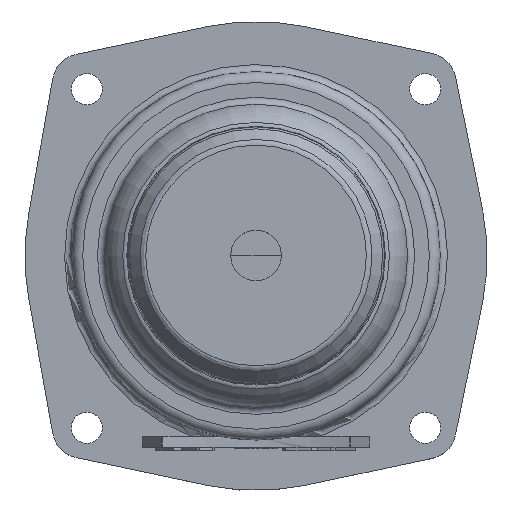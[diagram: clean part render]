
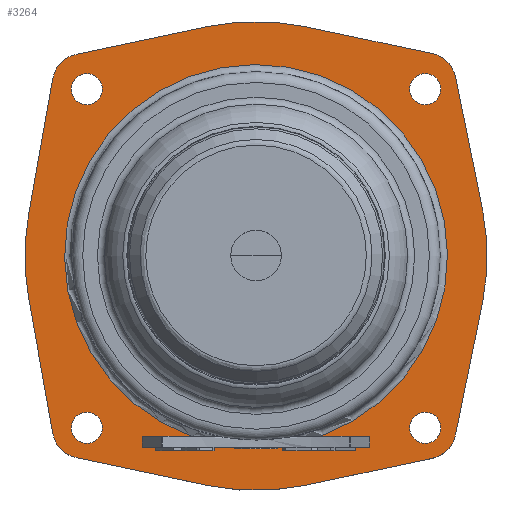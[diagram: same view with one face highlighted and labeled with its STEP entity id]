
A CAD part, top view. The second image highlights one B-rep face of the part: STEP entity #3264.
In plain terms, the highlighted planar face has unit normal (0, 0, 1).
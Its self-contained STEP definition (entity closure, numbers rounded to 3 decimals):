
#80=FACE_BOUND('',#1072,.T.);
#81=FACE_BOUND('',#1073,.T.);
#82=FACE_BOUND('',#1074,.T.);
#83=FACE_BOUND('',#1075,.T.);
#84=FACE_BOUND('',#1076,.T.);
#162=LINE('',#5100,#386);
#166=LINE('',#5112,#390);
#170=LINE('',#5124,#394);
#174=LINE('',#5136,#398);
#351=LINE('',#6741,#575);
#352=LINE('',#6745,#576);
#353=LINE('',#6749,#577);
#354=LINE('',#6752,#578);
#386=VECTOR('',#3726,18.72);
#390=VECTOR('',#3738,18.06);
#394=VECTOR('',#3750,18.582);
#398=VECTOR('',#3762,19.233);
#575=VECTOR('',#4529,18.791);
#576=VECTOR('',#4532,18.042);
#577=VECTOR('',#4535,18.57);
#578=VECTOR('',#4538,19.307);
#675=PLANE('',#3624);
#865=FACE_OUTER_BOUND('',#1071,.T.);
#1071=EDGE_LOOP('',(#2979,#2980,#2981,#2982,#2983,#2984,#2985,#2986,#2987,
#2988,#2989,#2990,#2991,#2992,#2993,#2994));
#1072=EDGE_LOOP('',(#2995));
#1073=EDGE_LOOP('',(#2996));
#1074=EDGE_LOOP('',(#2997));
#1075=EDGE_LOOP('',(#2998));
#1076=EDGE_LOOP('',(#2999));
#1113=CIRCLE('',#3313,2.159);
#1115=CIRCLE('',#3316,2.159);
#1118=CIRCLE('',#3321,4.16);
#1120=CIRCLE('',#3325,32.439);
#1122=CIRCLE('',#3329,4.16);
#1180=CIRCLE('',#3483,32.006);
#1210=CIRCLE('',#3530,26.5);
#1259=CIRCLE('',#3625,32.);
#1260=CIRCLE('',#3626,4.16);
#1261=CIRCLE('',#3627,32.497);
#1262=CIRCLE('',#3628,4.16);
#1263=CIRCLE('',#3629,2.159);
#1264=CIRCLE('',#3630,2.159);
#1375=VERTEX_POINT('',#5082);
#1377=VERTEX_POINT('',#5088);
#1381=VERTEX_POINT('',#5097);
#1382=VERTEX_POINT('',#5099);
#1384=VERTEX_POINT('',#5105);
#1386=VERTEX_POINT('',#5111);
#1388=VERTEX_POINT('',#5117);
#1390=VERTEX_POINT('',#5123);
#1392=VERTEX_POINT('',#5129);
#1394=VERTEX_POINT('',#5135);
#1545=VERTEX_POINT('',#5877);
#1579=VERTEX_POINT('',#6052);
#1622=VERTEX_POINT('',#6738);
#1623=VERTEX_POINT('',#6740);
#1624=VERTEX_POINT('',#6742);
#1625=VERTEX_POINT('',#6744);
#1626=VERTEX_POINT('',#6746);
#1627=VERTEX_POINT('',#6748);
#1628=VERTEX_POINT('',#6750);
#1629=VERTEX_POINT('',#6753);
#1630=VERTEX_POINT('',#6755);
#1687=EDGE_CURVE('',#1375,#1375,#1113,.T.);
#1690=EDGE_CURVE('',#1377,#1377,#1115,.T.);
#1695=EDGE_CURVE('',#1381,#1382,#162,.T.);
#1698=EDGE_CURVE('',#1382,#1384,#1118,.T.);
#1701=EDGE_CURVE('',#1384,#1386,#166,.T.);
#1704=EDGE_CURVE('',#1386,#1388,#1120,.T.);
#1707=EDGE_CURVE('',#1388,#1390,#170,.T.);
#1710=EDGE_CURVE('',#1390,#1392,#1122,.T.);
#1713=EDGE_CURVE('',#1392,#1394,#174,.T.);
#1954=EDGE_CURVE('',#1545,#1381,#1180,.T.);
#1999=EDGE_CURVE('',#1579,#1579,#1210,.T.);
#2086=EDGE_CURVE('',#1394,#1622,#1259,.T.);
#2087=EDGE_CURVE('',#1623,#1545,#351,.T.);
#2088=EDGE_CURVE('',#1624,#1623,#1260,.T.);
#2089=EDGE_CURVE('',#1625,#1624,#352,.T.);
#2090=EDGE_CURVE('',#1626,#1625,#1261,.T.);
#2091=EDGE_CURVE('',#1627,#1626,#353,.T.);
#2092=EDGE_CURVE('',#1628,#1627,#1262,.T.);
#2093=EDGE_CURVE('',#1622,#1628,#354,.T.);
#2094=EDGE_CURVE('',#1629,#1629,#1263,.T.);
#2095=EDGE_CURVE('',#1630,#1630,#1264,.T.);
#2979=ORIENTED_EDGE('',*,*,#2086,.F.);
#2980=ORIENTED_EDGE('',*,*,#1713,.F.);
#2981=ORIENTED_EDGE('',*,*,#1710,.F.);
#2982=ORIENTED_EDGE('',*,*,#1707,.F.);
#2983=ORIENTED_EDGE('',*,*,#1704,.F.);
#2984=ORIENTED_EDGE('',*,*,#1701,.F.);
#2985=ORIENTED_EDGE('',*,*,#1698,.F.);
#2986=ORIENTED_EDGE('',*,*,#1695,.F.);
#2987=ORIENTED_EDGE('',*,*,#1954,.F.);
#2988=ORIENTED_EDGE('',*,*,#2087,.F.);
#2989=ORIENTED_EDGE('',*,*,#2088,.F.);
#2990=ORIENTED_EDGE('',*,*,#2089,.F.);
#2991=ORIENTED_EDGE('',*,*,#2090,.F.);
#2992=ORIENTED_EDGE('',*,*,#2091,.F.);
#2993=ORIENTED_EDGE('',*,*,#2092,.F.);
#2994=ORIENTED_EDGE('',*,*,#2093,.F.);
#2995=ORIENTED_EDGE('',*,*,#1999,.F.);
#2996=ORIENTED_EDGE('',*,*,#1690,.F.);
#2997=ORIENTED_EDGE('',*,*,#1687,.F.);
#2998=ORIENTED_EDGE('',*,*,#2094,.F.);
#2999=ORIENTED_EDGE('',*,*,#2095,.F.);
#3264=ADVANCED_FACE('',(#865,#80,#81,#82,#83,#84),#675,.F.);
#3313=AXIS2_PLACEMENT_3D('',#5083,#3710,#3711);
#3316=AXIS2_PLACEMENT_3D('',#5089,#3717,#3718);
#3321=AXIS2_PLACEMENT_3D('',#5106,#3732,#3733);
#3325=AXIS2_PLACEMENT_3D('',#5118,#3744,#3745);
#3329=AXIS2_PLACEMENT_3D('',#5130,#3756,#3757);
#3483=AXIS2_PLACEMENT_3D('',#5879,#4214,#4215);
#3530=AXIS2_PLACEMENT_3D('',#6053,#4311,#4312);
#3624=AXIS2_PLACEMENT_3D('',#6737,#4525,#4526);
#3625=AXIS2_PLACEMENT_3D('',#6739,#4527,#4528);
#3626=AXIS2_PLACEMENT_3D('',#6743,#4530,#4531);
#3627=AXIS2_PLACEMENT_3D('',#6747,#4533,#4534);
#3628=AXIS2_PLACEMENT_3D('',#6751,#4536,#4537);
#3629=AXIS2_PLACEMENT_3D('',#6754,#4539,#4540);
#3630=AXIS2_PLACEMENT_3D('',#6756,#4541,#4542);
#3710=DIRECTION('center_axis',(0.,0.,1.));
#3711=DIRECTION('ref_axis',(-1.,0.,0.));
#3717=DIRECTION('center_axis',(0.,0.,1.));
#3718=DIRECTION('ref_axis',(-1.,0.,0.));
#3726=DIRECTION('',(-0.2,-0.98,0.));
#3732=DIRECTION('center_axis',(0.,0.,-1.));
#3733=DIRECTION('ref_axis',(0.98,-0.2,0.));
#3738=DIRECTION('',(-0.978,-0.208,0.));
#3744=DIRECTION('center_axis',(0.,0.,-1.));
#3745=DIRECTION('ref_axis',(0.208,-0.978,0.));
#3750=DIRECTION('',(-0.978,0.207,0.));
#3756=DIRECTION('center_axis',(0.,0.,-1.));
#3757=DIRECTION('ref_axis',(-0.207,-0.978,0.));
#3762=DIRECTION('',(-0.175,0.985,0.));
#4214=DIRECTION('center_axis',(0.,0.,-1.));
#4215=DIRECTION('ref_axis',(0.98,0.2,0.));
#4311=DIRECTION('center_axis',(0.,0.,1.));
#4312=DIRECTION('ref_axis',(1.,0.,0.));
#4525=DIRECTION('center_axis',(0.,0.,-1.));
#4526=DIRECTION('ref_axis',(0.,-1.,0.));
#4527=DIRECTION('center_axis',(0.,0.,-1.));
#4528=DIRECTION('ref_axis',(-0.985,-0.175,0.));
#4529=DIRECTION('',(0.2,-0.98,0.));
#4530=DIRECTION('center_axis',(0.,0.,-1.));
#4531=DIRECTION('ref_axis',(0.207,0.978,0.));
#4532=DIRECTION('',(0.978,-0.207,0.));
#4533=DIRECTION('center_axis',(0.,0.,-1.));
#4534=DIRECTION('ref_axis',(-0.207,0.978,0.));
#4535=DIRECTION('',(0.978,0.207,0.));
#4536=DIRECTION('center_axis',(0.,0.,-1.));
#4537=DIRECTION('ref_axis',(-0.985,0.174,0.));
#4538=DIRECTION('',(0.174,0.985,0.));
#4539=DIRECTION('center_axis',(0.,0.,1.));
#4540=DIRECTION('ref_axis',(-1.,0.,0.));
#4541=DIRECTION('center_axis',(0.,0.,1.));
#4542=DIRECTION('ref_axis',(-1.,0.,0.));
#5082=CARTESIAN_POINT('',(-21.255,-23.787,-22.));
#5083=CARTESIAN_POINT('Origin',(-23.414,-23.787,-22.));
#5088=CARTESIAN_POINT('',(25.574,-23.787,-22.));
#5089=CARTESIAN_POINT('Origin',(23.414,-23.787,-22.));
#5097=CARTESIAN_POINT('',(31.359,-6.432,-22.));
#5099=CARTESIAN_POINT('',(27.615,-24.773,-22.));
#5100=CARTESIAN_POINT('',(31.359,-6.432,-22.));
#5105=CARTESIAN_POINT('',(24.403,-28.011,-22.));
#5106=CARTESIAN_POINT('Origin',(23.539,-23.941,-22.));
#5111=CARTESIAN_POINT('',(6.737,-31.761,-22.));
#5112=CARTESIAN_POINT('',(24.403,-28.011,-22.));
#5117=CARTESIAN_POINT('',(-6.73,-31.763,-22.));
#5118=CARTESIAN_POINT('Origin',(0.,-0.03,-22.));
#5123=CARTESIAN_POINT('',(-24.908,-27.907,-22.));
#5124=CARTESIAN_POINT('',(-6.73,-31.763,-22.));
#5129=CARTESIAN_POINT('',(-28.141,-24.566,-22.));
#5130=CARTESIAN_POINT('Origin',(-24.045,-23.838,-22.));
#5135=CARTESIAN_POINT('',(-31.506,-5.63,-22.));
#5136=CARTESIAN_POINT('',(-28.141,-24.566,-22.));
#5877=CARTESIAN_POINT('',(31.359,6.372,-22.));
#5879=CARTESIAN_POINT('Origin',(0.,-0.03,-22.));
#6052=CARTESIAN_POINT('',(26.499,0.173,-22.));
#6053=CARTESIAN_POINT('Origin',(0.,0.,-22.));
#6737=CARTESIAN_POINT('Origin',(0.,0.,-22.));
#6738=CARTESIAN_POINT('',(-31.509,5.554,-22.));
#6739=CARTESIAN_POINT('Origin',(0.,-0.03,-22.));
#6740=CARTESIAN_POINT('',(27.6,24.784,-22.));
#6741=CARTESIAN_POINT('',(27.6,24.784,-22.));
#6742=CARTESIAN_POINT('',(24.387,28.021,-22.));
#6743=CARTESIAN_POINT('Origin',(23.525,23.951,-22.));
#6744=CARTESIAN_POINT('',(6.737,31.761,-22.));
#6745=CARTESIAN_POINT('',(6.737,31.761,-22.));
#6746=CARTESIAN_POINT('',(-6.741,31.76,-22.));
#6747=CARTESIAN_POINT('Origin',(0.,-0.03,-22.));
#6748=CARTESIAN_POINT('',(-24.907,27.908,-22.));
#6749=CARTESIAN_POINT('',(-24.907,27.908,-22.));
#6750=CARTESIAN_POINT('',(-28.14,24.564,-22.));
#6751=CARTESIAN_POINT('Origin',(-24.044,23.839,-22.));
#6752=CARTESIAN_POINT('',(-31.509,5.554,-22.));
#6753=CARTESIAN_POINT('',(-21.255,23.099,-22.));
#6754=CARTESIAN_POINT('Origin',(-23.414,23.099,-22.));
#6755=CARTESIAN_POINT('',(25.574,23.099,-22.));
#6756=CARTESIAN_POINT('Origin',(23.414,23.099,-22.));
